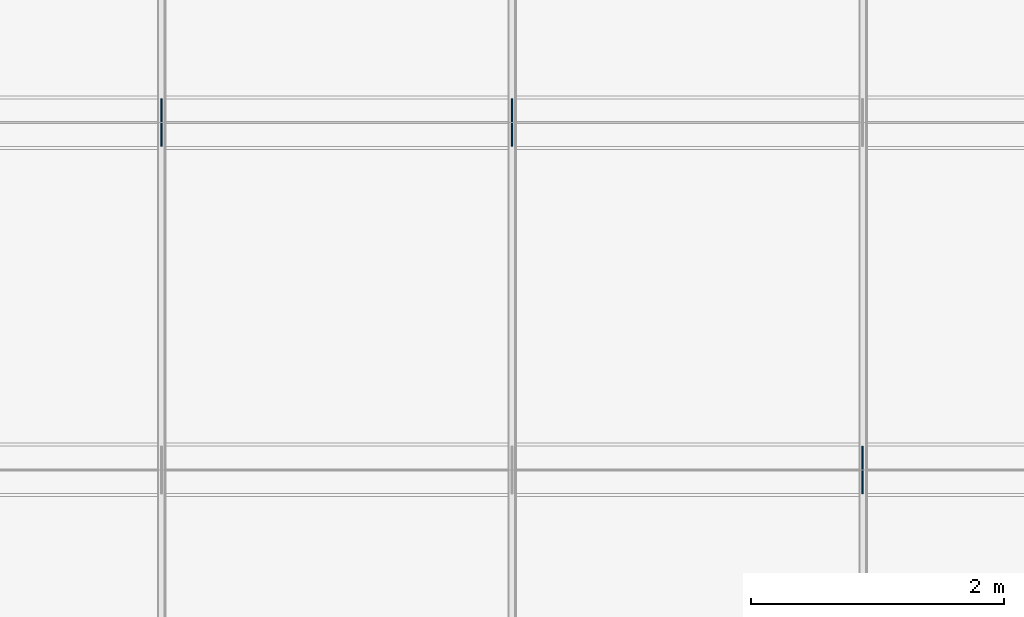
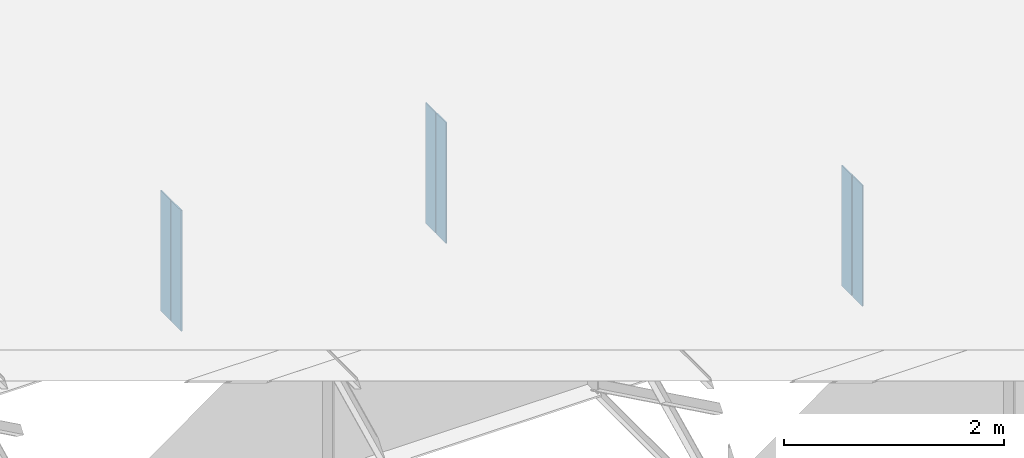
# One storey, part 7 of 13: 6 plates.
"""IFC4 building model written with IfcOpenShell, lengths in metres."""

from ifc_helpers import new_model, si_unit, frame, origin, origin_with_axes, origin_2d_with_axis, place, context, subcontext, project, spatial, rectangle, extrude, element, save


model = new_model("IFC4")

# Units and contexts
model_context = context("Model", 3, precision=1e-05, world=origin())
body_context = subcontext(model_context, "Body", "Model", "MODEL_VIEW")
ifc_project = project(units=[si_unit("LENGTHUNIT", "METRE"), si_unit("AREAUNIT", "SQUARE_METRE"), si_unit("VOLUMEUNIT", "CUBIC_METRE"), si_unit("PLANEANGLEUNIT", "RADIAN")], contexts=[model_context])

# Site, building, storey
site_placement = place(None, origin_with_axes())
site = spatial("IfcSite", under=ifc_project, at=site_placement, Name="Default Site")
building_placement = place(site_placement, origin_with_axes())
building = spatial("IfcBuilding", under=site, at=building_placement, Name="Bridge Structure")
storey_placement = place(building_placement, origin_with_axes())
storey = spatial("IfcBuildingStorey", under=building, at=storey_placement, Name="Superstructure")

# Plates
for number, where, z_axis, x_axis, name in (
    (1, (13.885, -2.65325, -0.6695), (0.0, 0.0, 1.0), (1.0, 0.0, 0.0), "Intermediate Stiffener 2"),
    (2, (13.885, -2.84675, -0.6695), (0.0, 0.0, 1.0), (1.0, 0.0, 0.0), "Intermediate Stiffener 2"),
    (3, (8.331, 0.09675, -0.6695), (0.0, 0.0, 1.0), (1.0, 0.0, 0.0), "Intermediate Stiffener 3"),
    (4, (8.331, -0.09675, -0.6695), (0.0, 0.0, 1.0), (1.0, 0.0, 0.0), "Intermediate Stiffener 3"),
    (5, (11.108, 0.09675, -0.6695), (0.0, 0.0, 1.0), (1.0, 0.0, 0.0), "Intermediate Stiffener 3"),
    (6, (11.108, -0.09675, -0.6695), (0.0, 0.0, 1.0), (1.0, 0.0, 0.0), "Intermediate Stiffener 3"),
):
    element("IfcPlate", number, at=place(storey_placement, frame(where, z_axis=z_axis, x_axis=x_axis)), inside=storey, Name=name, context=body_context, shape_type="SweptSolid", body=[
        extrude(rectangle(XDim=0.012, YDim=0.1815, at=origin_2d_with_axis()), origin_with_axes(), (0.0, 0.0, 1.0), 1.339),
    ])

save(model, "model.ifc")
